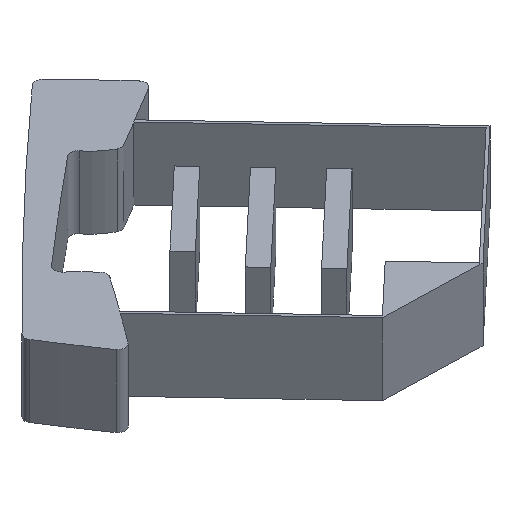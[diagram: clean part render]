
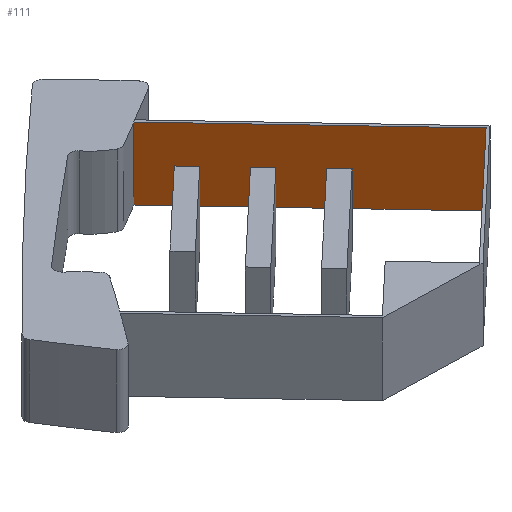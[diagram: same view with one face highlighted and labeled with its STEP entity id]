
A CAD part, isometric view. The second image highlights one B-rep face of the part: STEP entity #111.
In plain terms, the highlighted planar face has unit normal (-0.728, -0.686, 0).
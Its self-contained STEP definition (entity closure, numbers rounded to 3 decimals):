
#1 = EDGE_LOOP ( 'NONE', ( #35, #27, #32, #25 ) ) ;
#22 = EDGE_CURVE ( 'NONE', #103, #308, #556, .T. ) ;
#25 = ORIENTED_EDGE ( 'NONE', *, *, #382, .F. ) ;
#27 = ORIENTED_EDGE ( 'NONE', *, *, #105, .T. ) ;
#32 = ORIENTED_EDGE ( 'NONE', *, *, #22, .T. ) ;
#35 = ORIENTED_EDGE ( 'NONE', *, *, #413, .F. ) ;
#103 = VERTEX_POINT ( 'NONE', #702 ) ;
#105 = EDGE_CURVE ( 'NONE', #422, #103, #700, .T. ) ;
#111 = ADVANCED_FACE ( 'NONE', ( #686 ), #685, .T. ) ;
#308 = VERTEX_POINT ( 'NONE', #1021 ) ;
#382 = EDGE_CURVE ( 'NONE', #408, #308, #1140, .T. ) ;
#408 = VERTEX_POINT ( 'NONE', #1209 ) ;
#413 = EDGE_CURVE ( 'NONE', #422, #408, #1202, .T. ) ;
#422 = VERTEX_POINT ( 'NONE', #1188 ) ;
#553 = DIRECTION ( 'NONE',  ( 0., 0., 1. ) ) ;
#554 = VECTOR ( 'NONE', #553, 1000. ) ;
#555 = CARTESIAN_POINT ( 'NONE',  ( 11.535, 0.419, 0. ) ) ;
#556 = LINE ( 'NONE', #555, #554 ) ;
#680 = DIRECTION ( 'NONE',  ( 0.686, -0.728, 0. ) ) ;
#681 = DIRECTION ( 'NONE',  ( -0.728, -0.686, 0. ) ) ;
#682 = CARTESIAN_POINT ( 'NONE',  ( 6.677, 5.572, 0. ) ) ;
#683 = AXIS2_PLACEMENT_3D ( 'NONE', #682, #681, #680 ) ;
#685 = PLANE ( 'NONE',  #683 ) ;
#686 = FACE_OUTER_BOUND ( 'NONE', #1, .T. ) ;
#697 = DIRECTION ( 'NONE',  ( 0.686, -0.728, 0. ) ) ;
#698 = VECTOR ( 'NONE', #697, 1000. ) ;
#699 = CARTESIAN_POINT ( 'NONE',  ( 6.677, 5.572, 0. ) ) ;
#700 = LINE ( 'NONE', #699, #698 ) ;
#702 = CARTESIAN_POINT ( 'NONE',  ( 11.535, 0.419, 0. ) ) ;
#1021 = CARTESIAN_POINT ( 'NONE',  ( 11.535, 0.419, 2. ) ) ;
#1137 = DIRECTION ( 'NONE',  ( 0.686, -0.728, 0. ) ) ;
#1138 = VECTOR ( 'NONE', #1137, 1000. ) ;
#1139 = CARTESIAN_POINT ( 'NONE',  ( 6.677, 5.572, 2. ) ) ;
#1140 = LINE ( 'NONE', #1139, #1138 ) ;
#1188 = CARTESIAN_POINT ( 'NONE',  ( 6.776, 5.466, 0. ) ) ;
#1199 = DIRECTION ( 'NONE',  ( 0., 0., 1. ) ) ;
#1200 = VECTOR ( 'NONE', #1199, 1000. ) ;
#1201 = CARTESIAN_POINT ( 'NONE',  ( 6.776, 5.466, 2. ) ) ;
#1202 = LINE ( 'NONE', #1201, #1200 ) ;
#1209 = CARTESIAN_POINT ( 'NONE',  ( 6.776, 5.466, 2. ) ) ;
